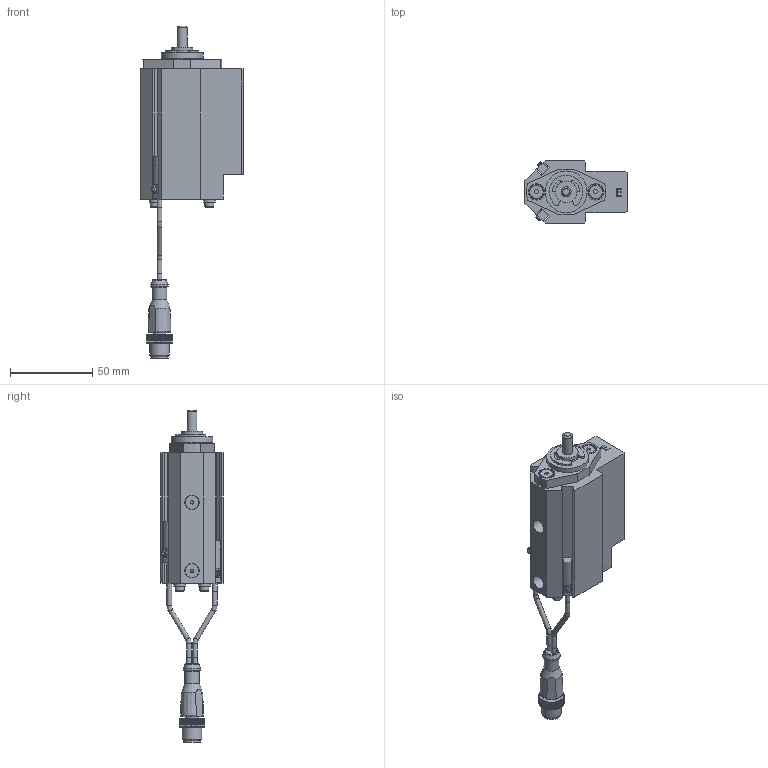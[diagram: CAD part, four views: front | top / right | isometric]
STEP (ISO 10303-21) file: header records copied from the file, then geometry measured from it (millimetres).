
FILE_DESCRIPTION(/* description */ ('NAAMS FLOATING MICRO PIN'),/* implementation_level */ '2;1');
FILE_NAME(/* name */ 'C:\Vault Workspace\CAD\Welker\Shot Pin\NMP\NMP060012EENL3.stp',/* time_stamp */ '2021-01-28T11:32:04-05:00',/* author */ ('WELKER'),/* organization */ (''),/* preprocessor_version */ 'ST-DEVELOPER v18.1',/* originating_system */ 'Autodesk Inventor 2020',/* authorisation */ '');
FILE_SCHEMA (('AUTOMOTIVE_DESIGN { 1 0 10303 214 3 1 1 }'));
Length unit declared in the file: millimetre
Products named in the file (16): NMPL01; NMP L3 SWITCH; L3 Connector; L3 Sensor 1; L3 Sensor 2; L3 Sensor cable; L3 Sensor cable 2; M3X0.5-8 SHCS; NL3; NMPE06; NMPE03; NMPE04-DIA-LENGTH; 985432A218; NMPE01E-PORT; RMPE02; M5X5 SHOULDER
Assembly tree (22 placements, depth 3):
  NMPL01
    NMP L3 SWITCH
      L3 Connector
      L3 Sensor 1
      L3 Sensor 2
      L3 Sensor cable
      L3 Sensor cable 2
    M3X0.5-8 SHCS  x4
    NL3  x4
    NMPE06
    NMPE03
    NMPE04-DIA-LENGTH
    985432A218
    NMPE01E-PORT
    RMPE02
    M5X5 SHOULDER  x2
Bounding box: 62 x 38.1 x 201.52 mm (x, y, z)
Volume: 112575.3 mm3; surface area: 44381.7 mm2
Topology: 21 solids, 21 shells, 748 faces, 2027 edges, 1354 vertices
Faces by surface type: plane 554, cylinder 144, cone 35, torus 11, bspline 2, sphere 2
Full cylindrical faces by diameter (mm): 2 x2, 2.459 x4, 2.9 x10, 3 x5, 3.242 x2, 3.4 x4, 4 x2, 5 x6, 5.5 x4, 6 x1, 6.647 x2, 7 x4, 8 x2, 8.3 x2, 9 x3, 10 x3, 10.4 x1, 10.5 x1, 12 x1, 13 x3, 16 x2, 19.05 x3, 21 x1, 22.5 x1, 23.672 x1, 24 x1, 25.4 x1, 25.5 x1, 26.5 x1, 28.677 x1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
Entity records: 22829 total; most frequent: CARTESIAN_POINT 4175, ORIENTED_EDGE 3746, DIRECTION 3730, EDGE_CURVE 1873, LINE 1388, VECTOR 1388, VERTEX_POINT 1259, AXIS2_PLACEMENT_3D 1171
